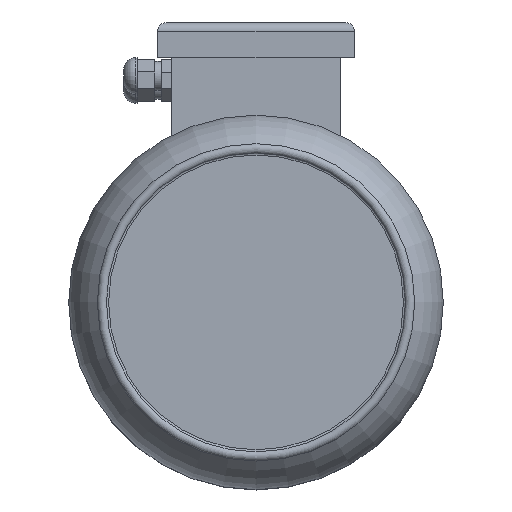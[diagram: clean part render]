
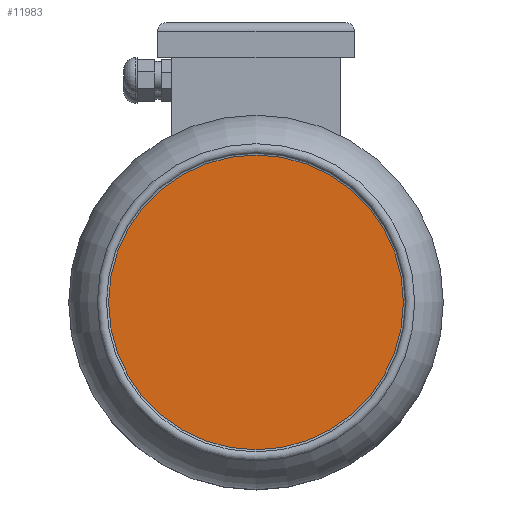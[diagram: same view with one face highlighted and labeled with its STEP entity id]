
A CAD part, top view. The second image highlights one B-rep face of the part: STEP entity #11983.
In plain terms, the highlighted planar face has unit normal (0, 0, 1).
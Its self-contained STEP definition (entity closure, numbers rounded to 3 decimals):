
#5143=ORIENTED_EDGE('',*,*,#7321,.F.);
#7321=EDGE_CURVE('',#8646,#8646,#9584,.T.);
#8646=VERTEX_POINT('',#20737);
#9584=CIRCLE('',#13381,85.758);
#10237=EDGE_LOOP('',(#5143));
#11034=FACE_BOUND('',#10237,.T.);
#11377=PLANE('',#13382);
#11983=ADVANCED_FACE('',(#11034),#11377,.T.);
#13381=AXIS2_PLACEMENT_3D('',#20736,#16606,#16607);
#13382=AXIS2_PLACEMENT_3D('',#20738,#16608,#16609);
#16606=DIRECTION('',(0.,0.,-1.));
#16607=DIRECTION('',(-1.,0.,0.));
#16608=DIRECTION('',(0.,0.,1.));
#16609=DIRECTION('',(1.,0.,0.));
#20736=CARTESIAN_POINT('',(0.,0.,647.145));
#20737=CARTESIAN_POINT('',(-85.758,0.,647.145));
#20738=CARTESIAN_POINT('',(85.758,0.,647.145));
